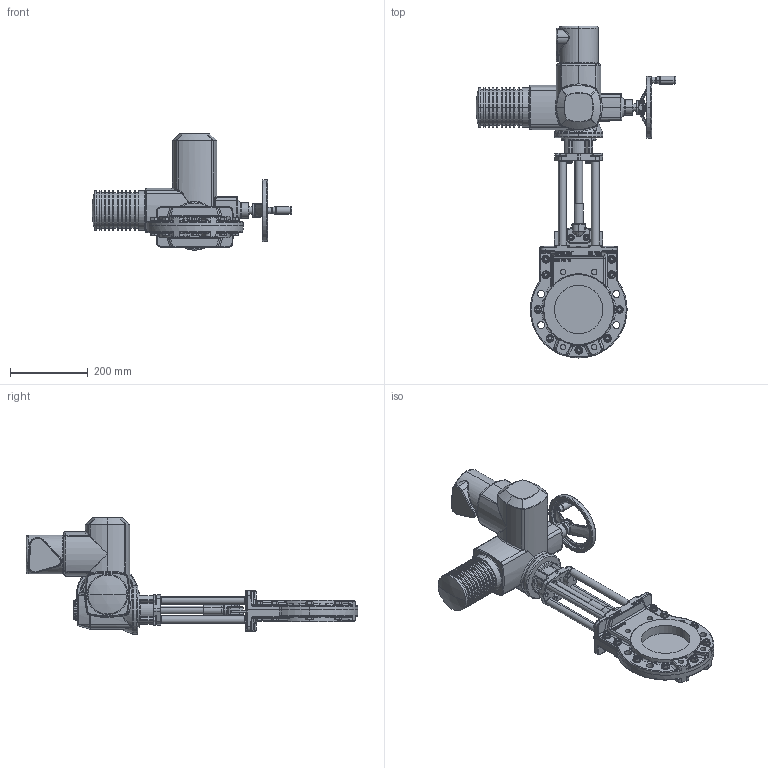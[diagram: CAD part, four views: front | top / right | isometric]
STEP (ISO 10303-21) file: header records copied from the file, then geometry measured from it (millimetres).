
FILE_DESCRIPTION (( 'STEP AP214' ), '1' );
FILE_NAME ('MGE DN 0125 PN10_16 (SA 07.2).STEP', '2015-09-23T08:39:01', ( 'admin' ), ( 'Hewlett-Packard Company' ), 'SwSTEP 2.0', 'SolidWorks 2013', '' );
FILE_SCHEMA (( 'AUTOMOTIVE_DESIGN' ));
Length unit declared in the file: millimetre
Products named in the file (1): MGE DN 0125 PN10_16 (SA 07.2)
Bounding box: 516 x 856.5 x 300.5 mm (x, y, z)
Volume: 10302191.9 mm3; surface area: 795994.6 mm2
Topology: 57 solids, 66 shells, 3044 faces, 7178 edges, 4204 vertices
Faces by surface type: plane 952, cylinder 747, bspline 516, cone 492, torus 299, sphere 38
Entity records: 143452 total; most frequent: CARTESIAN_POINT 43563, ORIENTED_EDGE 14000, DIRECTION 13353, EDGE_CURVE 7000, AXIS2_PLACEMENT_3D 5366, VERTEX_POINT 4204, EDGE_LOOP 3290, UNCERTAINTY_MEASURE_WITH_UNIT 3101
